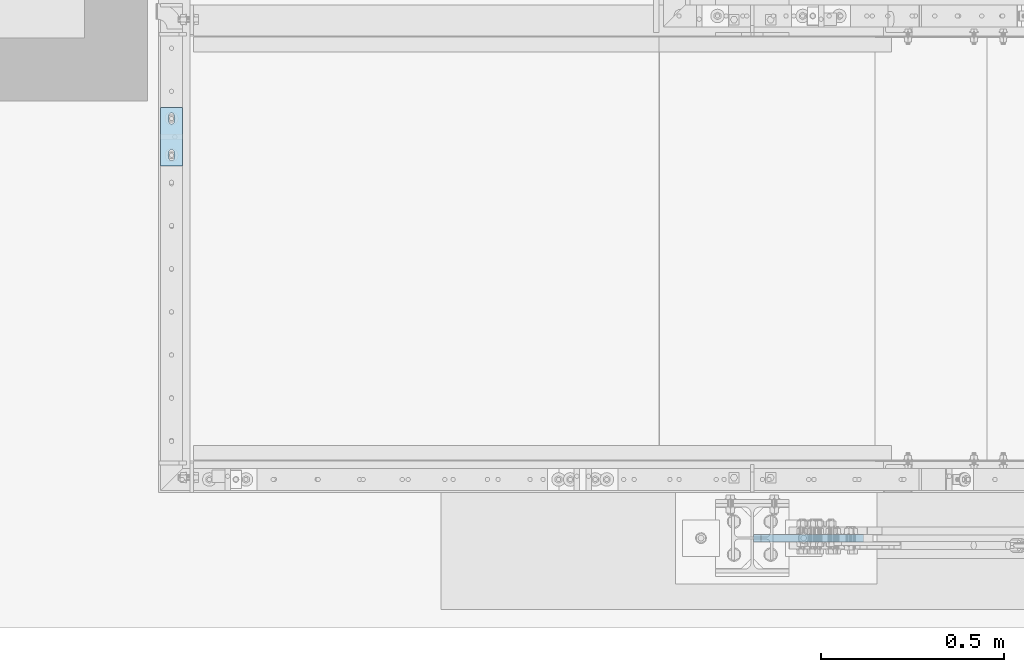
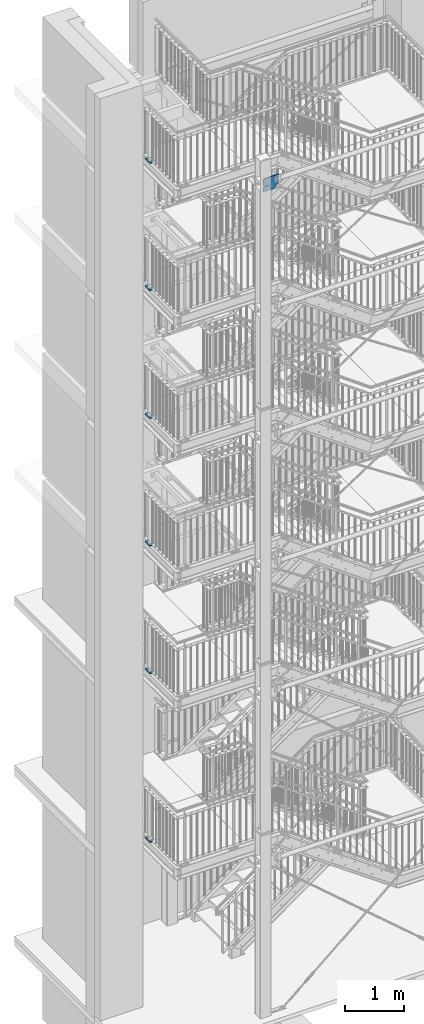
# One storey, part 155 of 825: 7 plates, 18 openings.
"""IFC2X3 building model written with IfcOpenShell, lengths in millimetres."""

from ifc_helpers import new_model, entity, si_unit, converted_unit, point, frame, frame_2d, origin, origin_with_axes, place, context, project, spatial, polyline, circle_curve, line_curve, trimmed, segment, composite_curve, circle, outline, extrude, material, layer, layer_set, element, save


model = new_model("IFC2X3")

# Units and contexts
model_context = context("Model", 3, precision=1e-09, world=origin_with_axes())
ifc_project = project(units=[si_unit("LENGTHUNIT", "METRE", prefix="MILLI"), si_unit("AREAUNIT", "SQUARE_METRE"), si_unit("VOLUMEUNIT", "CUBIC_METRE"), converted_unit("PLANEANGLEUNIT", "DEGREE", entity("IfcPlaneAngleMeasure", 0.01745329), si_unit("PLANEANGLEUNIT", "RADIAN"), dimensions=[0, 0, 0, 0, 0, 0, 0])], contexts=[model_context])

# Site, building, storey
site_placement = place(None, origin_with_axes())
site = spatial("IfcSite", under=ifc_project, at=site_placement, Name="Cnopf'sche Kinderklinik", CompositionType="ELEMENT")
building_placement = place(site_placement, origin_with_axes())
building = spatial("IfcBuilding", under=site, at=building_placement, Name="Struktur 1", CompositionType="ELEMENT")
storey_placement = place(building_placement, origin_with_axes())
storey = spatial("IfcBuildingStorey", under=building, at=storey_placement, Name="Default Storey", CompositionType="ELEMENT", Elevation=0.0)

# Plate, openings
ifc_material = material(Name="S235JR")
ifc_layer = layer(ifc_material, 20.0)
ifc_layer_set = layer_set([ifc_layer], Name="S235JR")
plate_1_placement = place(None, frame((3241.713402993, 5541.738971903, 3847.0), z_axis=(0.0, 0.0, 1.0), x_axis=(0.0, -1.0, 0.0)))
plate_1 = element("IfcPlate", 1, at=plate_1_placement, inside=storey, material=ifc_layer_set, Name="Plate#513", ObjectType="Plate#513", context=model_context, shape_type="SweptSolid", body=[
    extrude(outline(polyline([(0.0, 0.0), (160.0, 0.0), (160.0, 60.0), (0.0, 60.0), (0.0, 0.0)])), origin_with_axes(), (0.0, 0.0, 1.0), 20.0),
])
opening_1_placement = place(plate_1_placement, frame((38.0, 37.001, 20.5), z_axis=(0.0, 0.0, 1.0), x_axis=(-1.0, 0.0, 0.0)))
element("IfcOpeningElement", 2, at=opening_1_placement, cuts=plate_1, ObjectType="Opening", context=model_context, shape_type="SweptSolid", body=[
    extrude(outline(composite_curve([segment(trimmed(line_curve((0.0, 0.0), (1.0, 0.0), 16.0), [point((0.0, 0.0))], [point((16.0, 0.0))], True, "CARTESIAN"), True, "CONTINUOUS"), segment(trimmed(circle_curve(frame_2d((16.0, 7.001), x_axis=(1.0, 0.0)), 7.001), [point((16.0, 0.0))], [point((16.0, 14.002))], True, "CARTESIAN"), True, "CONTINUOUS"), segment(trimmed(line_curve((16.0, 14.002), (-1.0, 0.0), 16.0), [point((16.0, 14.002))], [point((0.0, 14.002))], True, "CARTESIAN"), True, "CONTINUOUS"), segment(trimmed(circle_curve(frame_2d((0.0, 7.001), x_axis=(1.0, 0.0)), 7.001), [point((0.0, 14.002))], [point((0.0, 0.0))], True, "CARTESIAN"), True, "CONTINUOUS")], self_intersect=False)), origin(), (0.0, 0.0, -1.0), 21.0),
])
opening_2_placement = place(plate_1_placement, frame((138.0, 37.001, 20.5), z_axis=(0.0, 0.0, 1.0), x_axis=(-1.0, 0.0, 0.0)))
element("IfcOpeningElement", 3, at=opening_2_placement, cuts=plate_1, ObjectType="Opening", context=model_context, shape_type="SweptSolid", body=[
    extrude(outline(composite_curve([segment(trimmed(line_curve((0.0, 0.0), (1.0, 0.0), 16.0), [point((0.0, 0.0))], [point((16.0, 0.0))], True, "CARTESIAN"), True, "CONTINUOUS"), segment(trimmed(circle_curve(frame_2d((16.0, 7.001), x_axis=(1.0, 0.0)), 7.001), [point((16.0, 0.0))], [point((16.0, 14.002))], True, "CARTESIAN"), True, "CONTINUOUS"), segment(trimmed(line_curve((16.0, 14.002), (-1.0, 0.0), 16.0), [point((16.0, 14.002))], [point((0.0, 14.002))], True, "CARTESIAN"), True, "CONTINUOUS"), segment(trimmed(circle_curve(frame_2d((0.0, 7.001), x_axis=(1.0, 0.0)), 7.001), [point((0.0, 14.002))], [point((0.0, 0.0))], True, "CARTESIAN"), True, "CONTINUOUS")], self_intersect=False)), origin(), (0.0, 0.0, -1.0), 21.0),
])

plate_2_placement = place(None, frame((3241.713402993, 5541.738971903, 7320.0), z_axis=(0.0, 0.0, 1.0), x_axis=(0.0, -1.0, 0.0)))
plate_2 = element("IfcPlate", 4, at=plate_2_placement, inside=storey, material=ifc_layer_set, Name="Plate#514", ObjectType="Plate#514", context=model_context, shape_type="SweptSolid", body=[
    extrude(outline(polyline([(0.0, 0.0), (160.0, 0.0), (160.0, 60.0), (0.0, 60.0), (0.0, 0.0)])), origin_with_axes(), (0.0, 0.0, 1.0), 20.0),
])
opening_3_placement = place(plate_2_placement, frame((38.0, 37.001, 20.5), z_axis=(0.0, 0.0, 1.0), x_axis=(-1.0, 0.0, 0.0)))
element("IfcOpeningElement", 5, at=opening_3_placement, cuts=plate_2, ObjectType="Opening", context=model_context, shape_type="SweptSolid", body=[
    extrude(outline(composite_curve([segment(trimmed(line_curve((0.0, 0.0), (1.0, 0.0), 16.0), [point((0.0, 0.0))], [point((16.0, 0.0))], True, "CARTESIAN"), True, "CONTINUOUS"), segment(trimmed(circle_curve(frame_2d((16.0, 7.001), x_axis=(1.0, 0.0)), 7.001), [point((16.0, 0.0))], [point((16.0, 14.002))], True, "CARTESIAN"), True, "CONTINUOUS"), segment(trimmed(line_curve((16.0, 14.002), (-1.0, 0.0), 16.0), [point((16.0, 14.002))], [point((0.0, 14.002))], True, "CARTESIAN"), True, "CONTINUOUS"), segment(trimmed(circle_curve(frame_2d((0.0, 7.001), x_axis=(1.0, 0.0)), 7.001), [point((0.0, 14.002))], [point((0.0, 0.0))], True, "CARTESIAN"), True, "CONTINUOUS")], self_intersect=False)), origin(), (0.0, 0.0, -1.0), 21.0),
])
opening_4_placement = place(plate_2_placement, frame((138.0, 37.001, 20.5), z_axis=(0.0, 0.0, 1.0), x_axis=(-1.0, 0.0, 0.0)))
element("IfcOpeningElement", 6, at=opening_4_placement, cuts=plate_2, ObjectType="Opening", context=model_context, shape_type="SweptSolid", body=[
    extrude(outline(composite_curve([segment(trimmed(line_curve((0.0, 0.0), (1.0, 0.0), 16.0), [point((0.0, 0.0))], [point((16.0, 0.0))], True, "CARTESIAN"), True, "CONTINUOUS"), segment(trimmed(circle_curve(frame_2d((16.0, 7.001), x_axis=(1.0, 0.0)), 7.001), [point((16.0, 0.0))], [point((16.0, 14.002))], True, "CARTESIAN"), True, "CONTINUOUS"), segment(trimmed(line_curve((16.0, 14.002), (-1.0, 0.0), 16.0), [point((16.0, 14.002))], [point((0.0, 14.002))], True, "CARTESIAN"), True, "CONTINUOUS"), segment(trimmed(circle_curve(frame_2d((0.0, 7.001), x_axis=(1.0, 0.0)), 7.001), [point((0.0, 14.002))], [point((0.0, 0.0))], True, "CARTESIAN"), True, "CONTINUOUS")], self_intersect=False)), origin(), (0.0, 0.0, -1.0), 21.0),
])

plate_3_placement = place(None, frame((3241.713402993, 5541.738971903, 9952.0), z_axis=(0.0, 0.0, 1.0), x_axis=(0.0, -1.0, 0.0)))
plate_3 = element("IfcPlate", 7, at=plate_3_placement, inside=storey, material=ifc_layer_set, Name="Plate#514", ObjectType="Plate#514", context=model_context, shape_type="SweptSolid", body=[
    extrude(outline(polyline([(0.0, 0.0), (160.0, 0.0), (160.0, 60.0), (0.0, 60.0), (0.0, 0.0)])), origin_with_axes(), (0.0, 0.0, 1.0), 20.0),
])
opening_5_placement = place(plate_3_placement, frame((38.0, 37.001, 20.5), z_axis=(0.0, 0.0, 1.0), x_axis=(-1.0, 0.0, 0.0)))
element("IfcOpeningElement", 8, at=opening_5_placement, cuts=plate_3, ObjectType="Opening", context=model_context, shape_type="SweptSolid", body=[
    extrude(outline(composite_curve([segment(trimmed(line_curve((0.0, 0.0), (1.0, 0.0), 16.0), [point((0.0, 0.0))], [point((16.0, 0.0))], True, "CARTESIAN"), True, "CONTINUOUS"), segment(trimmed(circle_curve(frame_2d((16.0, 7.001), x_axis=(1.0, 0.0)), 7.001), [point((16.0, 0.0))], [point((16.0, 14.002))], True, "CARTESIAN"), True, "CONTINUOUS"), segment(trimmed(line_curve((16.0, 14.002), (-1.0, 0.0), 16.0), [point((16.0, 14.002))], [point((0.0, 14.002))], True, "CARTESIAN"), True, "CONTINUOUS"), segment(trimmed(circle_curve(frame_2d((0.0, 7.001), x_axis=(1.0, 0.0)), 7.001), [point((0.0, 14.002))], [point((0.0, 0.0))], True, "CARTESIAN"), True, "CONTINUOUS")], self_intersect=False)), origin(), (0.0, 0.0, -1.0), 21.0),
])
opening_6_placement = place(plate_3_placement, frame((138.0, 37.001, 20.5), z_axis=(0.0, 0.0, 1.0), x_axis=(-1.0, 0.0, 0.0)))
element("IfcOpeningElement", 9, at=opening_6_placement, cuts=plate_3, ObjectType="Opening", context=model_context, shape_type="SweptSolid", body=[
    extrude(outline(composite_curve([segment(trimmed(line_curve((0.0, 0.0), (1.0, 0.0), 16.0), [point((0.0, 0.0))], [point((16.0, 0.0))], True, "CARTESIAN"), True, "CONTINUOUS"), segment(trimmed(circle_curve(frame_2d((16.0, 7.001), x_axis=(1.0, 0.0)), 7.001), [point((16.0, 0.0))], [point((16.0, 14.002))], True, "CARTESIAN"), True, "CONTINUOUS"), segment(trimmed(line_curve((16.0, 14.002), (-1.0, 0.0), 16.0), [point((16.0, 14.002))], [point((0.0, 14.002))], True, "CARTESIAN"), True, "CONTINUOUS"), segment(trimmed(circle_curve(frame_2d((0.0, 7.001), x_axis=(1.0, 0.0)), 7.001), [point((0.0, 14.002))], [point((0.0, 0.0))], True, "CARTESIAN"), True, "CONTINUOUS")], self_intersect=False)), origin(), (0.0, 0.0, -1.0), 21.0),
])

plate_4_placement = place(None, frame((3241.713402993, 5541.738971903, 12579.0), z_axis=(0.0, 0.0, 1.0), x_axis=(0.0, -1.0, 0.0)))
plate_4 = element("IfcPlate", 10, at=plate_4_placement, inside=storey, material=ifc_layer_set, Name="Plate#514", ObjectType="Plate#514", context=model_context, shape_type="SweptSolid", body=[
    extrude(outline(polyline([(0.0, 0.0), (160.0, 0.0), (160.0, 60.0), (0.0, 60.0), (0.0, 0.0)])), origin_with_axes(), (0.0, 0.0, 1.0), 20.0),
])
opening_7_placement = place(plate_4_placement, frame((38.0, 37.001, 20.5), z_axis=(0.0, 0.0, 1.0), x_axis=(-1.0, 0.0, 0.0)))
element("IfcOpeningElement", 11, at=opening_7_placement, cuts=plate_4, ObjectType="Opening", context=model_context, shape_type="SweptSolid", body=[
    extrude(outline(composite_curve([segment(trimmed(line_curve((0.0, 0.0), (1.0, 0.0), 16.0), [point((0.0, 0.0))], [point((16.0, 0.0))], True, "CARTESIAN"), True, "CONTINUOUS"), segment(trimmed(circle_curve(frame_2d((16.0, 7.001), x_axis=(1.0, 0.0)), 7.001), [point((16.0, 0.0))], [point((16.0, 14.002))], True, "CARTESIAN"), True, "CONTINUOUS"), segment(trimmed(line_curve((16.0, 14.002), (-1.0, 0.0), 16.0), [point((16.0, 14.002))], [point((0.0, 14.002))], True, "CARTESIAN"), True, "CONTINUOUS"), segment(trimmed(circle_curve(frame_2d((0.0, 7.001), x_axis=(1.0, 0.0)), 7.001), [point((0.0, 14.002))], [point((0.0, 0.0))], True, "CARTESIAN"), True, "CONTINUOUS")], self_intersect=False)), origin(), (0.0, 0.0, -1.0), 21.0),
])
opening_8_placement = place(plate_4_placement, frame((138.0, 37.001, 20.5), z_axis=(0.0, 0.0, 1.0), x_axis=(-1.0, 0.0, 0.0)))
element("IfcOpeningElement", 12, at=opening_8_placement, cuts=plate_4, ObjectType="Opening", context=model_context, shape_type="SweptSolid", body=[
    extrude(outline(composite_curve([segment(trimmed(line_curve((0.0, 0.0), (1.0, 0.0), 16.0), [point((0.0, 0.0))], [point((16.0, 0.0))], True, "CARTESIAN"), True, "CONTINUOUS"), segment(trimmed(circle_curve(frame_2d((16.0, 7.001), x_axis=(1.0, 0.0)), 7.001), [point((16.0, 0.0))], [point((16.0, 14.002))], True, "CARTESIAN"), True, "CONTINUOUS"), segment(trimmed(line_curve((16.0, 14.002), (-1.0, 0.0), 16.0), [point((16.0, 14.002))], [point((0.0, 14.002))], True, "CARTESIAN"), True, "CONTINUOUS"), segment(trimmed(circle_curve(frame_2d((0.0, 7.001), x_axis=(1.0, 0.0)), 7.001), [point((0.0, 14.002))], [point((0.0, 0.0))], True, "CARTESIAN"), True, "CONTINUOUS")], self_intersect=False)), origin(), (0.0, 0.0, -1.0), 21.0),
])

plate_5_placement = place(None, frame((3241.713402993, 5541.738971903, 15214.0), z_axis=(0.0, 0.0, 1.0), x_axis=(0.0, -1.0, 0.0)))
plate_5 = element("IfcPlate", 13, at=plate_5_placement, inside=storey, material=ifc_layer_set, Name="Plate#514", ObjectType="Plate#514", context=model_context, shape_type="SweptSolid", body=[
    extrude(outline(polyline([(0.0, 0.0), (160.0, 0.0), (160.0, 60.0), (0.0, 60.0), (0.0, 0.0)])), origin_with_axes(), (0.0, 0.0, 1.0), 20.0),
])
opening_9_placement = place(plate_5_placement, frame((38.0, 37.001, 20.5), z_axis=(0.0, 0.0, 1.0), x_axis=(-1.0, 0.0, 0.0)))
element("IfcOpeningElement", 14, at=opening_9_placement, cuts=plate_5, ObjectType="Opening", context=model_context, shape_type="SweptSolid", body=[
    extrude(outline(composite_curve([segment(trimmed(line_curve((0.0, 0.0), (1.0, 0.0), 16.0), [point((0.0, 0.0))], [point((16.0, 0.0))], True, "CARTESIAN"), True, "CONTINUOUS"), segment(trimmed(circle_curve(frame_2d((16.0, 7.001), x_axis=(1.0, 0.0)), 7.001), [point((16.0, 0.0))], [point((16.0, 14.002))], True, "CARTESIAN"), True, "CONTINUOUS"), segment(trimmed(line_curve((16.0, 14.002), (-1.0, 0.0), 16.0), [point((16.0, 14.002))], [point((0.0, 14.002))], True, "CARTESIAN"), True, "CONTINUOUS"), segment(trimmed(circle_curve(frame_2d((0.0, 7.001), x_axis=(1.0, 0.0)), 7.001), [point((0.0, 14.002))], [point((0.0, 0.0))], True, "CARTESIAN"), True, "CONTINUOUS")], self_intersect=False)), origin(), (0.0, 0.0, -1.0), 21.0),
])
opening_10_placement = place(plate_5_placement, frame((138.0, 37.001, 20.5), z_axis=(0.0, 0.0, 1.0), x_axis=(-1.0, 0.0, 0.0)))
element("IfcOpeningElement", 15, at=opening_10_placement, cuts=plate_5, ObjectType="Opening", context=model_context, shape_type="SweptSolid", body=[
    extrude(outline(composite_curve([segment(trimmed(line_curve((0.0, 0.0), (1.0, 0.0), 16.0), [point((0.0, 0.0))], [point((16.0, 0.0))], True, "CARTESIAN"), True, "CONTINUOUS"), segment(trimmed(circle_curve(frame_2d((16.0, 7.001), x_axis=(1.0, 0.0)), 7.001), [point((16.0, 0.0))], [point((16.0, 14.002))], True, "CARTESIAN"), True, "CONTINUOUS"), segment(trimmed(line_curve((16.0, 14.002), (-1.0, 0.0), 16.0), [point((16.0, 14.002))], [point((0.0, 14.002))], True, "CARTESIAN"), True, "CONTINUOUS"), segment(trimmed(circle_curve(frame_2d((0.0, 7.001), x_axis=(1.0, 0.0)), 7.001), [point((0.0, 14.002))], [point((0.0, 0.0))], True, "CARTESIAN"), True, "CONTINUOUS")], self_intersect=False)), origin(), (0.0, 0.0, -1.0), 21.0),
])

plate_6_placement = place(None, frame((3241.713402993, 5541.738971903, 17834.0), z_axis=(0.0, 0.0, 1.0), x_axis=(0.0, -1.0, 0.0)))
plate_6 = element("IfcPlate", 16, at=plate_6_placement, inside=storey, material=ifc_layer_set, Name="Plate#514", ObjectType="Plate#514", context=model_context, shape_type="SweptSolid", body=[
    extrude(outline(polyline([(0.0, 0.0), (160.0, 0.0), (160.0, 60.0), (0.0, 60.0), (0.0, 0.0)])), origin_with_axes(), (0.0, 0.0, 1.0), 20.0),
])
opening_11_placement = place(plate_6_placement, frame((38.0, 37.001, 20.5), z_axis=(0.0, 0.0, 1.0), x_axis=(-1.0, 0.0, 0.0)))
element("IfcOpeningElement", 17, at=opening_11_placement, cuts=plate_6, ObjectType="Opening", context=model_context, shape_type="SweptSolid", body=[
    extrude(outline(composite_curve([segment(trimmed(line_curve((0.0, 0.0), (1.0, 0.0), 16.0), [point((0.0, 0.0))], [point((16.0, 0.0))], True, "CARTESIAN"), True, "CONTINUOUS"), segment(trimmed(circle_curve(frame_2d((16.0, 7.001), x_axis=(1.0, 0.0)), 7.001), [point((16.0, 0.0))], [point((16.0, 14.002))], True, "CARTESIAN"), True, "CONTINUOUS"), segment(trimmed(line_curve((16.0, 14.002), (-1.0, 0.0), 16.0), [point((16.0, 14.002))], [point((0.0, 14.002))], True, "CARTESIAN"), True, "CONTINUOUS"), segment(trimmed(circle_curve(frame_2d((0.0, 7.001), x_axis=(1.0, 0.0)), 7.001), [point((0.0, 14.002))], [point((0.0, 0.0))], True, "CARTESIAN"), True, "CONTINUOUS")], self_intersect=False)), origin(), (0.0, 0.0, -1.0), 21.0),
])
opening_12_placement = place(plate_6_placement, frame((138.0, 37.001, 20.5), z_axis=(0.0, 0.0, 1.0), x_axis=(-1.0, 0.0, 0.0)))
element("IfcOpeningElement", 18, at=opening_12_placement, cuts=plate_6, ObjectType="Opening", context=model_context, shape_type="SweptSolid", body=[
    extrude(outline(composite_curve([segment(trimmed(line_curve((0.0, 0.0), (1.0, 0.0), 16.0), [point((0.0, 0.0))], [point((16.0, 0.0))], True, "CARTESIAN"), True, "CONTINUOUS"), segment(trimmed(circle_curve(frame_2d((16.0, 7.001), x_axis=(1.0, 0.0)), 7.001), [point((16.0, 0.0))], [point((16.0, 14.002))], True, "CARTESIAN"), True, "CONTINUOUS"), segment(trimmed(line_curve((16.0, 14.002), (-1.0, 0.0), 16.0), [point((16.0, 14.002))], [point((0.0, 14.002))], True, "CARTESIAN"), True, "CONTINUOUS"), segment(trimmed(circle_curve(frame_2d((0.0, 7.001), x_axis=(1.0, 0.0)), 7.001), [point((0.0, 14.002))], [point((0.0, 0.0))], True, "CARTESIAN"), True, "CONTINUOUS")], self_intersect=False)), origin(), (0.0, 0.0, -1.0), 21.0),
])

plate_7_placement = place(None, frame((5159.963402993, 4376.736971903, 17582.999996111), z_axis=(0.0, -1.0, 0.0), x_axis=(-1.0, 0.0, 0.0)))
plate_7 = element("IfcPlate", 19, at=plate_7_placement, inside=storey, material=ifc_layer_set, Name="-", ObjectType="-", context=model_context, shape_type="SweptSolid", body=[
    extrude(outline(polyline([(0.0, -110.0), (300.0, -110.0), (300.0, 277.428405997), (80.797896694, 277.428405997), (0.0, 154.0), (0.0, -110.0)])), origin_with_axes(), (0.0, 0.0, 1.0), 20.0),
])
opening_13_placement = place(plate_7_placement, frame((0.0, 0.0, 20.1), z_axis=(0.0, 0.0, -1.0), x_axis=(1.0, 0.0, 0.0)))
element("IfcOpeningElement", 20, at=opening_13_placement, cuts=plate_7, ObjectType="Opening", context=model_context, shape_type="SweptSolid", body=[
    extrude(outline(composite_curve([segment(trimmed(line_curve((320.001, -147.998996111), (-1.0, 0.0), 20.001414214), [point((320.001, -147.998996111))], [point((299.999585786, -147.998996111))], True, "CARTESIAN"), True, "CONTINUOUS"), segment(trimmed(line_curve((299.999585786, -147.998996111), (-0.707106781, -0.707106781), 28.284271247), [point((299.999585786, -147.998996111))], [point((279.999585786, -167.998996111))], True, "CARTESIAN"), True, "CONTINUOUS"), segment(trimmed(line_curve((279.999585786, -167.998996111), (-1.0, 0.0), 77.749585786), [point((279.999585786, -167.998996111))], [point((202.25, -167.998996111))], True, "CARTESIAN"), True, "CONTINUOUS"), segment(trimmed(circle_curve(frame_2d((202.25, -173.999996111), x_axis=(1.0, 0.0)), 6.001), [point((202.25, -167.998996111))], [point((202.250004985, -180.000996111))], True, "CARTESIAN"), True, "CONTINUOUS"), segment(trimmed(line_curve((202.250004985, -180.000996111), (1.0, 0.0), 77.749580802), [point((202.250004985, -180.000996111))], [point((279.999585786, -180.000996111))], True, "CARTESIAN"), True, "CONTINUOUS"), segment(trimmed(line_curve((279.999585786, -180.000996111), (0.707106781, -0.707106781), 28.284271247), [point((279.999585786, -180.000996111))], [point((299.999585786, -200.000996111))], True, "CARTESIAN"), True, "CONTINUOUS"), segment(trimmed(line_curve((299.999585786, -200.000996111), (1.0, 0.0), 20.001414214), [point((299.999585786, -200.000996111))], [point((320.001, -200.000996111))], True, "CARTESIAN"), True, "CONTINUOUS"), segment(trimmed(line_curve((320.001, -200.000996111), (0.0, 1.0), 52.002), [point((320.001, -200.000996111))], [point((320.001, -147.998996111))], True, "CARTESIAN"), True, "CONTINUOUS")], self_intersect=False)), origin(), (0.0, 0.0, 1.0), 20.2),
])
opening_14_placement = place(plate_7_placement, frame((0.0, 0.0, -0.1), z_axis=(0.0, 0.0, 1.0), x_axis=(-1.0, 0.0, 0.0)))
element("IfcOpeningElement", 21, at=opening_14_placement, cuts=plate_7, ObjectType="Opening", context=model_context, shape_type="SweptSolid", body=[
    extrude(outline(polyline([(-357.550566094, -87.534865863), (-279.997343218, -10.002996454), (66.534507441, -10.002996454), (66.534507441, 200.331791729), (-389.783896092, 200.331791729), (-357.550566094, -87.534865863)])), origin(), (0.0, 0.0, 1.0), 20.2),
])
opening_15_placement = place(plate_7_placement, frame((30.999001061, 54.0, -0.5), z_axis=(0.0, 0.0, -1.0), x_axis=(-1.0, 0.0, 0.0)))
element("IfcOpeningElement", 22, at=opening_15_placement, cuts=plate_7, ObjectType="Opening", context=model_context, shape_type="SweptSolid", body=[
    extrude(circle(Radius=9.001, at=frame_2d((-9.001, 0.0), x_axis=(1.0, 0.0))), origin(), (0.0, 0.0, -1.0), 21.0),
])
opening_16_placement = place(plate_7_placement, frame((30.999001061, 114.0, -0.5), z_axis=(0.0, 0.0, -1.0), x_axis=(-1.0, 0.0, 0.0)))
element("IfcOpeningElement", 23, at=opening_16_placement, cuts=plate_7, ObjectType="Opening", context=model_context, shape_type="SweptSolid", body=[
    extrude(circle(Radius=9.001, at=frame_2d((-9.001, 0.0), x_axis=(1.0, 0.0))), origin(), (0.0, 0.0, -1.0), 21.0),
])
opening_17_placement = place(plate_7_placement, frame((95.605125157, 219.668222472, -0.5), z_axis=(0.0, 0.0, -1.0), x_axis=(-1.0, 0.0, 0.0)))
element("IfcOpeningElement", 24, at=opening_17_placement, cuts=plate_7, ObjectType="Opening", context=model_context, shape_type="SweptSolid", body=[
    extrude(circle(Radius=9.001, at=frame_2d((7.535218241, 4.9232598), x_axis=(1.0, 0.0))), origin(), (0.0, 0.0, -1.0), 21.0),
])
opening_18_placement = place(plate_7_placement, frame((145.83433241, 186.850136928, -0.5), z_axis=(0.0, 0.0, -1.0), x_axis=(-1.0, 0.0, 0.0)))
element("IfcOpeningElement", 25, at=opening_18_placement, cuts=plate_7, ObjectType="Opening", context=model_context, shape_type="SweptSolid", body=[
    extrude(circle(Radius=9.001, at=frame_2d((7.535218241, 4.9232598), x_axis=(1.0, 0.0))), origin(), (0.0, 0.0, -1.0), 21.0),
])

save(model, "model.ifc")
